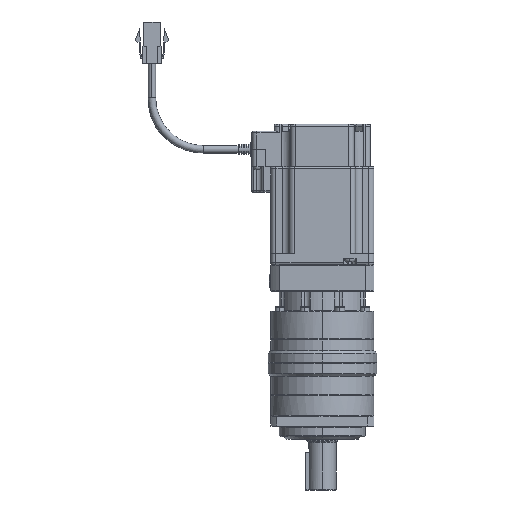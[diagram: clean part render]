
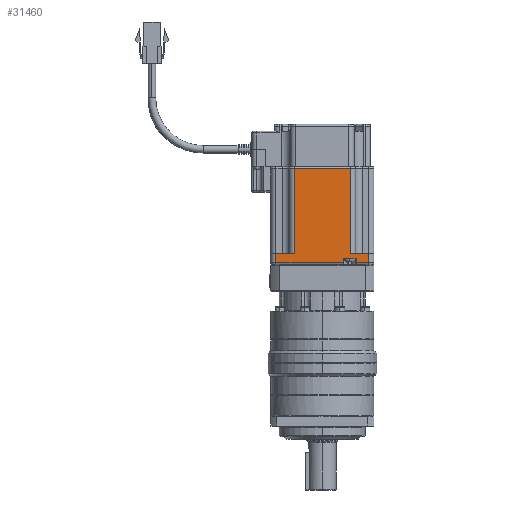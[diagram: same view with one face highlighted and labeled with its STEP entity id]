
A CAD part, left-side view. The second image highlights one B-rep face of the part: STEP entity #31460.
In plain terms, the highlighted planar face has unit normal (-1, 0, 0) as drawn and (1, 0, 0) by its records, which use the part's own axes.
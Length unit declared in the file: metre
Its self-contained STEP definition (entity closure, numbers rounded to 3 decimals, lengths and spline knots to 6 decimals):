
#2365 = PLANE ( 'NONE',  #44009 ) ;
#2373 = CARTESIAN_POINT ( 'NONE',  ( 0.092176, 0.055692, -0.212 ) ) ;
#2375 = DIRECTION ( 'NONE',  ( 1., 0., 0. ) ) ;
#2377 = DIRECTION ( 'NONE',  ( 0., 1., 0. ) ) ;
#7537 = CARTESIAN_POINT ( 'NONE',  ( 0.092176, 0.085692, -0.2057 ) ) ;
#7538 = DIRECTION ( 'NONE',  ( 0., -1., 0. ) ) ;
#7735 = CARTESIAN_POINT ( 'NONE',  ( 0.092176, 0.069392, -0.1835 ) ) ;
#7736 = DIRECTION ( 'NONE',  ( 0., 0., -1. ) ) ;
#7740 = DIRECTION ( 'NONE',  ( 0., 0., -1. ) ) ;
#7742 = CARTESIAN_POINT ( 'NONE',  ( 0.092176, 0.101992, -0.18035 ) ) ;
#7752 = CARTESIAN_POINT ( 'NONE',  ( 0.092176, 0.085692, -0.156 ) ) ;
#7753 = DIRECTION ( 'NONE',  ( 0., 1., 0. ) ) ;
#8776 = VECTOR ( 'NONE', #11712, 1. ) ;
#8778 = LINE ( 'NONE', #11711, #8776 ) ;
#8796 = VECTOR ( 'NONE', #11757, 1. ) ;
#8808 = LINE ( 'NONE', #11756, #8796 ) ;
#8812 = LINE ( 'NONE', #11767, #8818 ) ;
#8818 = VECTOR ( 'NONE', #11768, 1. ) ;
#8819 = LINE ( 'NONE', #11762, #8822 ) ;
#8822 = VECTOR ( 'NONE', #11770, 1. ) ;
#8823 = LINE ( 'NONE', #11784, #8827 ) ;
#8827 = VECTOR ( 'NONE', #11785, 1. ) ;
#8837 = LINE ( 'NONE', #11796, #8839 ) ;
#8839 = VECTOR ( 'NONE', #11797, 1. ) ;
#8844 = LINE ( 'NONE', #11800, #8845 ) ;
#8845 = VECTOR ( 'NONE', #11801, 1. ) ;
#8851 = LINE ( 'NONE', #11811, #8852 ) ;
#8852 = VECTOR ( 'NONE', #11812, 1. ) ;
#8875 = VECTOR ( 'NONE', #7538, 1. ) ;
#8877 = LINE ( 'NONE', #7537, #8875 ) ;
#8980 = VECTOR ( 'NONE', #7736, 1. ) ;
#8983 = LINE ( 'NONE', #7742, #8988 ) ;
#8984 = LINE ( 'NONE', #7735, #8980 ) ;
#8988 = VECTOR ( 'NONE', #7740, 1. ) ;
#8989 = VECTOR ( 'NONE', #7753, 1. ) ;
#8991 = LINE ( 'NONE', #7752, #8989 ) ;
#9325 = FACE_OUTER_BOUND ( 'NONE', #37553, .T. ) ;
#11711 = CARTESIAN_POINT ( 'NONE',  ( 0.092176, 0.085692, -0.2057 ) ) ;
#11712 = DIRECTION ( 'NONE',  ( 0., -1., 0. ) ) ;
#11756 = CARTESIAN_POINT ( 'NONE',  ( 0.092176, 0.058692, -0.1835 ) ) ;
#11757 = DIRECTION ( 'NONE',  ( 0., 0., -1. ) ) ;
#11762 = CARTESIAN_POINT ( 'NONE',  ( 0.092176, 0.097892, -0.1835 ) ) ;
#11767 = CARTESIAN_POINT ( 'NONE',  ( 0.092176, 0.085692, -0.211 ) ) ;
#11768 = DIRECTION ( 'NONE',  ( 0., 1., 0. ) ) ;
#11770 = DIRECTION ( 'NONE',  ( 0., 0., 1. ) ) ;
#11784 = CARTESIAN_POINT ( 'NONE',  ( 0.092176, 0.085692, -0.2085 ) ) ;
#11785 = DIRECTION ( 'NONE',  ( 0., 1., 0. ) ) ;
#11796 = CARTESIAN_POINT ( 'NONE',  ( 0.092176, 0.105292, -0.1835 ) ) ;
#11797 = DIRECTION ( 'NONE',  ( 0., 0., -1. ) ) ;
#11800 = CARTESIAN_POINT ( 'NONE',  ( 0.092176, 0.085692, -0.211 ) ) ;
#11801 = DIRECTION ( 'NONE',  ( 0., 1., 0. ) ) ;
#11811 = CARTESIAN_POINT ( 'NONE',  ( 0.092176, 0.112692, -0.1835 ) ) ;
#11812 = DIRECTION ( 'NONE',  ( 0., 0., 1. ) ) ;
#16268 = CARTESIAN_POINT ( 'NONE',  ( 0.092176, 0.058692, -0.211 ) ) ;
#16281 = CARTESIAN_POINT ( 'NONE',  ( 0.092176, 0.112692, -0.211 ) ) ;
#16311 = CARTESIAN_POINT ( 'NONE',  ( 0.092176, 0.069392, -0.2057 ) ) ;
#16317 = CARTESIAN_POINT ( 'NONE',  ( 0.092176, 0.058692, -0.2057 ) ) ;
#16321 = CARTESIAN_POINT ( 'NONE',  ( 0.092176, 0.105292, -0.2085 ) ) ;
#16323 = CARTESIAN_POINT ( 'NONE',  ( 0.092176, 0.097892, -0.2085 ) ) ;
#16324 = CARTESIAN_POINT ( 'NONE',  ( 0.092176, 0.105292, -0.211 ) ) ;
#16325 = CARTESIAN_POINT ( 'NONE',  ( 0.092176, 0.097892, -0.211 ) ) ;
#16326 = CARTESIAN_POINT ( 'NONE',  ( 0.092176, 0.112692, -0.2057 ) ) ;
#16332 = CARTESIAN_POINT ( 'NONE',  ( 0.092176, 0.101992, -0.2057 ) ) ;
#16352 = CARTESIAN_POINT ( 'NONE',  ( 0.092176, 0.101992, -0.156 ) ) ;
#16355 = CARTESIAN_POINT ( 'NONE',  ( 0.092176, 0.069392, -0.156 ) ) ;
#31102 = EDGE_CURVE ( 'NONE', #42796, #42802, #8778, .T. ) ;
#31119 = EDGE_CURVE ( 'NONE', #42802, #42753, #8808, .T. ) ;
#31123 = EDGE_CURVE ( 'NONE', #42753, #42810, #8812, .T. ) ;
#31124 = EDGE_CURVE ( 'NONE', #42810, #42808, #8819, .T. ) ;
#31130 = EDGE_CURVE ( 'NONE', #42808, #42806, #8823, .T. ) ;
#31134 = EDGE_CURVE ( 'NONE', #42806, #42809, #8837, .T. ) ;
#31136 = EDGE_CURVE ( 'NONE', #42809, #42766, #8844, .T. ) ;
#31140 = EDGE_CURVE ( 'NONE', #42766, #42811, #8851, .T. ) ;
#31155 = EDGE_CURVE ( 'NONE', #42811, #42817, #8877, .T. ) ;
#31223 = EDGE_CURVE ( 'NONE', #42840, #42796, #8984, .T. ) ;
#31226 = EDGE_CURVE ( 'NONE', #42837, #42817, #8983, .T. ) ;
#31228 = EDGE_CURVE ( 'NONE', #42840, #42837, #8991, .T. ) ;
#31460 = ADVANCED_FACE ( 'NONE', ( #9325 ), #2365, .T. ) ;
#35173 = ORIENTED_EDGE ( 'NONE', *, *, #31155, .T. ) ;
#35174 = ORIENTED_EDGE ( 'NONE', *, *, #31226, .F. ) ;
#35175 = ORIENTED_EDGE ( 'NONE', *, *, #31228, .F. ) ;
#35176 = ORIENTED_EDGE ( 'NONE', *, *, #31223, .T. ) ;
#35177 = ORIENTED_EDGE ( 'NONE', *, *, #31102, .T. ) ;
#35178 = ORIENTED_EDGE ( 'NONE', *, *, #31119, .T. ) ;
#35179 = ORIENTED_EDGE ( 'NONE', *, *, #31123, .T. ) ;
#35180 = ORIENTED_EDGE ( 'NONE', *, *, #31124, .T. ) ;
#35181 = ORIENTED_EDGE ( 'NONE', *, *, #31130, .T. ) ;
#35182 = ORIENTED_EDGE ( 'NONE', *, *, #31134, .T. ) ;
#35183 = ORIENTED_EDGE ( 'NONE', *, *, #31136, .T. ) ;
#35184 = ORIENTED_EDGE ( 'NONE', *, *, #31140, .T. ) ;
#37553 = EDGE_LOOP ( 'NONE', ( #35173, #35174, #35175, #35176, #35177, #35178, #35179, #35180, #35181, #35182, #35183, #35184 ) ) ;
#42753 = VERTEX_POINT ( 'NONE', #16268 ) ;
#42766 = VERTEX_POINT ( 'NONE', #16281 ) ;
#42796 = VERTEX_POINT ( 'NONE', #16311 ) ;
#42802 = VERTEX_POINT ( 'NONE', #16317 ) ;
#42806 = VERTEX_POINT ( 'NONE', #16321 ) ;
#42808 = VERTEX_POINT ( 'NONE', #16323 ) ;
#42809 = VERTEX_POINT ( 'NONE', #16324 ) ;
#42810 = VERTEX_POINT ( 'NONE', #16325 ) ;
#42811 = VERTEX_POINT ( 'NONE', #16326 ) ;
#42817 = VERTEX_POINT ( 'NONE', #16332 ) ;
#42837 = VERTEX_POINT ( 'NONE', #16352 ) ;
#42840 = VERTEX_POINT ( 'NONE', #16355 ) ;
#44009 = AXIS2_PLACEMENT_3D ( 'NONE', #2373, #2375, #2377 ) ;
